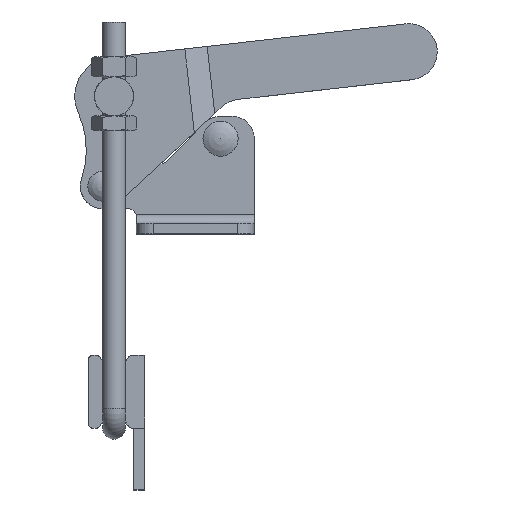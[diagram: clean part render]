
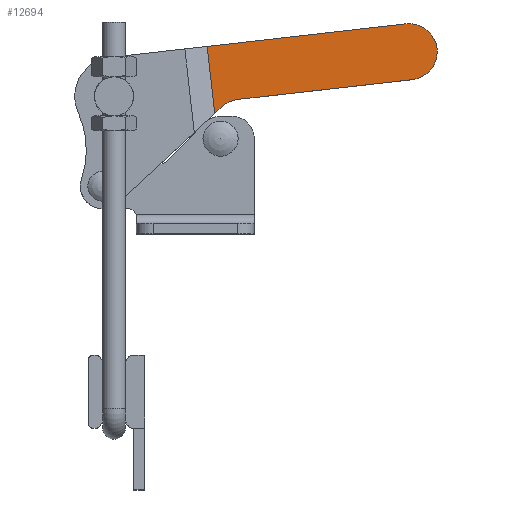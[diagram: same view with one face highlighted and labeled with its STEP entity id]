
A CAD part, top view. The second image highlights one B-rep face of the part: STEP entity #12694.
In plain terms, the highlighted planar face has unit normal (0, 0, 1).
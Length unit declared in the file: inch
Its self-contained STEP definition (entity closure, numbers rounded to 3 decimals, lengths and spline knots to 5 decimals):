
#12507=CARTESIAN_POINT('',(15.66915,7.69943,-0.23963));
#12508=VERTEX_POINT('',#12507);
#12515=CARTESIAN_POINT('',(15.73962,7.07842,-0.23963));
#12516=VERTEX_POINT('',#12515);
#12517=CARTESIAN_POINT('',(15.70439,7.38892,-0.23963));
#12518=DIRECTION('',(0.0,0.0,-1.0));
#12519=DIRECTION('',(1.0,0.0,0.0));
#12520=AXIS2_PLACEMENT_3D('',#12517,#12518,#12519);
#12521=CIRCLE('',#12520,0.3125);
#12522=EDGE_CURVE('',#12508,#12516,#12521,.T.);
#12538=CARTESIAN_POINT('',(13.45519,7.4482,-0.23963));
#12539=VERTEX_POINT('',#12538);
#12540=CARTESIAN_POINT('',(13.45519,7.4482,-0.23963));
#12541=DIRECTION('',(0.994,0.113,0.0));
#12542=VECTOR('',#12541,2.22817);
#12543=LINE('',#12540,#12542);
#12544=EDGE_CURVE('',#12539,#12508,#12543,.T.);
#12569=CARTESIAN_POINT('',(13.79853,6.85815,-0.23963));
#12570=VERTEX_POINT('',#12569);
#12571=CARTESIAN_POINT('',(15.73962,7.07842,-0.23963));
#12572=DIRECTION('',(-0.994,-0.113,0.0));
#12573=VECTOR('',#12572,1.95355);
#12574=LINE('',#12571,#12573);
#12575=EDGE_CURVE('',#12516,#12570,#12574,.T.);
#12600=CARTESIAN_POINT('',(13.62181,6.77728,-0.23963));
#12601=VERTEX_POINT('',#12600);
#12602=CARTESIAN_POINT('',(13.83376,6.54764,-0.23963));
#12603=DIRECTION('',(0.0,0.0,1.0));
#12604=DIRECTION('',(1.0,0.0,0.0));
#12605=AXIS2_PLACEMENT_3D('',#12602,#12603,#12604);
#12606=CIRCLE('',#12605,0.3125);
#12607=EDGE_CURVE('',#12570,#12601,#12606,.T.);
#12633=CARTESIAN_POINT('',(13.5399,6.70167,-0.23963));
#12634=VERTEX_POINT('',#12633);
#12635=CARTESIAN_POINT('',(13.62181,6.77728,-0.23963));
#12636=DIRECTION('',(-0.735,-0.678,0.0));
#12637=VECTOR('',#12636,0.11147);
#12638=LINE('',#12635,#12637);
#12639=EDGE_CURVE('',#12601,#12634,#12638,.T.);
#12664=CARTESIAN_POINT('',(13.5399,6.70167,-0.23963));
#12665=DIRECTION('',(-0.113,0.994,0.0));
#12666=VECTOR('',#12665,0.75132);
#12667=LINE('',#12664,#12666);
#12668=EDGE_CURVE('',#12634,#12539,#12667,.T.);
#12681=CARTESIAN_POINT('',(14.66213,7.25887,-0.23963));
#12682=DIRECTION('',(0.0,0.0,1.0));
#12683=DIRECTION('',(1.0,0.0,0.0));
#12684=AXIS2_PLACEMENT_3D('',#12681,#12682,#12683);
#12685=PLANE('',#12684);
#12686=ORIENTED_EDGE('',*,*,#12544,.F.);
#12687=ORIENTED_EDGE('',*,*,#12668,.F.);
#12688=ORIENTED_EDGE('',*,*,#12639,.F.);
#12689=ORIENTED_EDGE('',*,*,#12607,.F.);
#12690=ORIENTED_EDGE('',*,*,#12575,.F.);
#12691=ORIENTED_EDGE('',*,*,#12522,.F.);
#12692=EDGE_LOOP('',(#12686,#12687,#12688,#12689,#12690,#12691));
#12693=FACE_OUTER_BOUND('',#12692,.T.);
#12694=ADVANCED_FACE('',(#12693),#12685,.T.);
